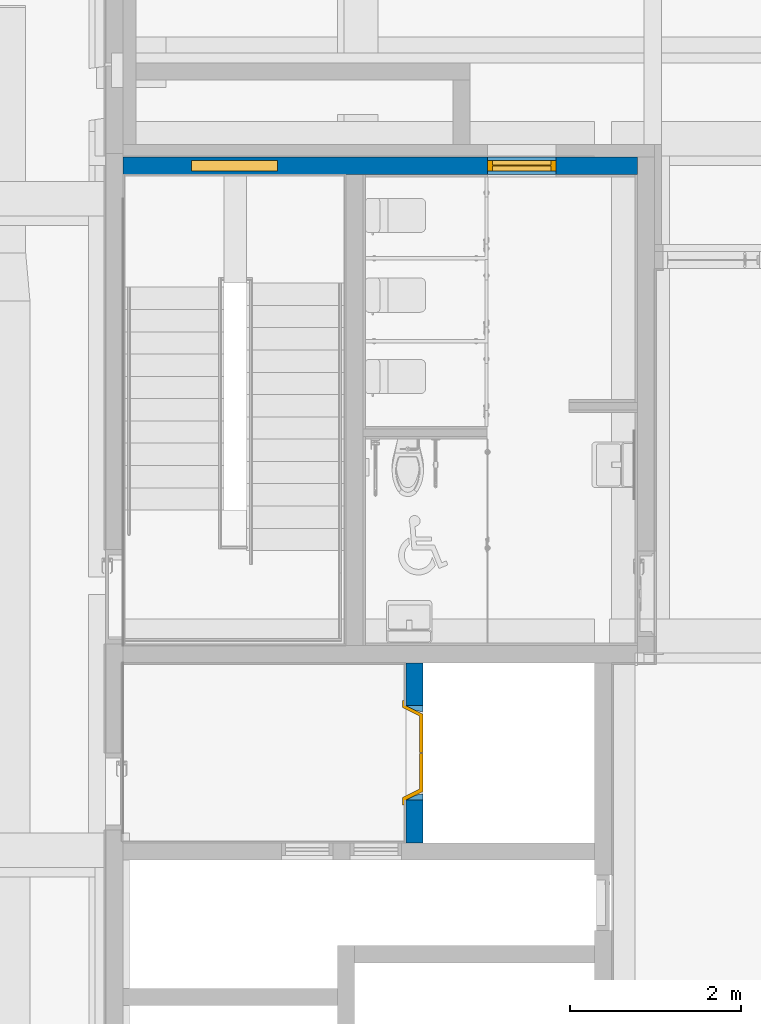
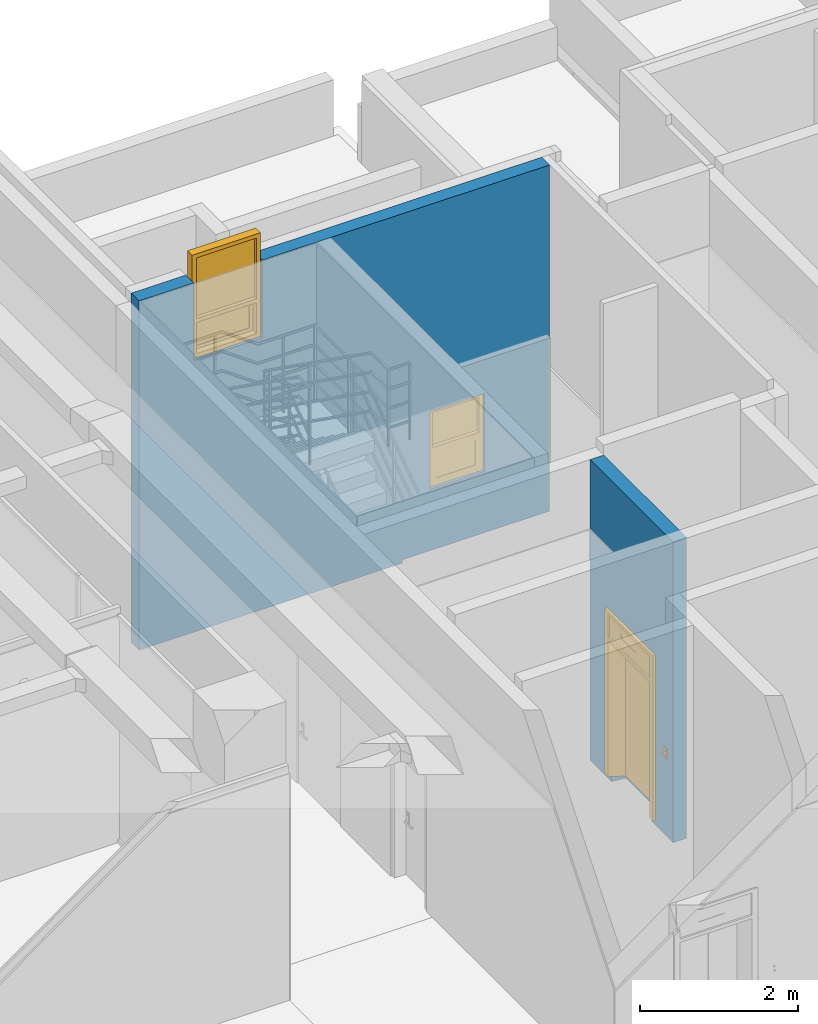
# One storey, part 64 of 100: 2 walls, 2 windows, 1 door, 3 openings.
"""IFC2X3 building model written with IfcOpenShell, lengths in millimetres."""

from ifc_helpers import new_model, entity, si_unit, converted_unit, derived_unit, direction, frame, frame_2d, origin, place, context, subcontext, project, spatial, rectangle, extrude, faceted_brep, source, transform, mapped, material, material_list, layer, layer_set, type_object, type_shapes, element, fill, save


model = new_model("IFC2X3")

# Units and contexts
model_context = context("Model", 3, precision=0.01, world=origin(), true_north=direction((6.123031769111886e-17, 1.0)))
body_context = subcontext(model_context, "Body", "Model", "MODEL_VIEW")
ifc_project = project(units=[si_unit("LENGTHUNIT", "METRE", prefix="MILLI"), si_unit("AREAUNIT", "SQUARE_METRE"), si_unit("VOLUMEUNIT", "CUBIC_METRE"), converted_unit("PLANEANGLEUNIT", "DEGREE", entity("IfcRatioMeasure", 0.017453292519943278), si_unit("PLANEANGLEUNIT", "RADIAN"), dimensions=[0, 0, 0, 0, 0, 0, 0]), si_unit("MASSUNIT", "GRAM", prefix="KILO"), derived_unit("MASSDENSITYUNIT", [(si_unit("MASSUNIT", "GRAM", prefix="KILO"), 1), (si_unit("LENGTHUNIT", "METRE"), -3)]), derived_unit("MOMENTOFINERTIAUNIT", [(si_unit("LENGTHUNIT", "METRE"), 4)]), si_unit("TIMEUNIT", "SECOND"), si_unit("FREQUENCYUNIT", "HERTZ"), si_unit("THERMODYNAMICTEMPERATUREUNIT", "DEGREE_CELSIUS"), derived_unit("THERMALTRANSMITTANCEUNIT", [(si_unit("MASSUNIT", "GRAM", prefix="KILO"), 1), (si_unit("THERMODYNAMICTEMPERATUREUNIT", "KELVIN"), -1), (si_unit("TIMEUNIT", "SECOND"), -3)]), derived_unit("VOLUMETRICFLOWRATEUNIT", [(si_unit("LENGTHUNIT", "METRE"), 3), (si_unit("TIMEUNIT", "SECOND"), -1)]), derived_unit("MASSFLOWRATEUNIT", [(si_unit("MASSUNIT", "GRAM", prefix="KILO"), 1), (si_unit("TIMEUNIT", "SECOND"), -1)]), derived_unit("ROTATIONALFREQUENCYUNIT", [(si_unit("TIMEUNIT", "SECOND"), -1)]), si_unit("ELECTRICCURRENTUNIT", "AMPERE"), si_unit("ELECTRICVOLTAGEUNIT", "VOLT"), si_unit("POWERUNIT", "WATT"), si_unit("FORCEUNIT", "NEWTON", prefix="KILO"), si_unit("ILLUMINANCEUNIT", "LUX"), si_unit("LUMINOUSFLUXUNIT", "LUMEN"), si_unit("LUMINOUSINTENSITYUNIT", "CANDELA"), derived_unit("USERDEFINED", [(si_unit("MASSUNIT", "GRAM", prefix="KILO"), -1), (si_unit("LENGTHUNIT", "METRE"), -2), (si_unit("TIMEUNIT", "SECOND"), 3), (si_unit("LUMINOUSFLUXUNIT", "LUMEN"), 1)]), derived_unit("SOUNDPOWERUNIT", [(si_unit("MASSUNIT", "GRAM", prefix="KILO"), 1), (si_unit("LENGTHUNIT", "METRE"), 2), (si_unit("TIMEUNIT", "SECOND"), -3)]), derived_unit("SOUNDPRESSUREUNIT", [(si_unit("MASSUNIT", "GRAM", prefix="KILO"), 1), (si_unit("LENGTHUNIT", "METRE"), -1), (si_unit("TIMEUNIT", "SECOND"), -2)]), derived_unit("LINEARVELOCITYUNIT", [(si_unit("LENGTHUNIT", "METRE"), 1), (si_unit("TIMEUNIT", "SECOND"), -1)]), si_unit("PRESSUREUNIT", "PASCAL"), derived_unit("USERDEFINED", [(si_unit("LENGTHUNIT", "METRE"), -2), (si_unit("MASSUNIT", "GRAM", prefix="KILO"), 1), (si_unit("TIMEUNIT", "SECOND"), -2)]), derived_unit("LINEARFORCEUNIT", [(si_unit("MASSUNIT", "GRAM", prefix="KILO"), 1), (si_unit("LENGTHUNIT", "METRE"), 1), (si_unit("TIMEUNIT", "SECOND"), -2), (si_unit("LENGTHUNIT", "METRE"), -1)]), derived_unit("PLANARFORCEUNIT", [(si_unit("MASSUNIT", "GRAM", prefix="KILO"), 1), (si_unit("LENGTHUNIT", "METRE"), 1), (si_unit("TIMEUNIT", "SECOND"), -2), (si_unit("LENGTHUNIT", "METRE"), -2)])], contexts=[model_context])

# Site, building, storey
site_placement = place(None, frame((-14167.972527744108, -657.2125860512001, 0.0)))
site = spatial("IfcSite", under=ifc_project, at=site_placement, Name="Default", CompositionType="ELEMENT")
building_placement = place(site_placement, origin())
building = spatial("IfcBuilding", under=site, at=building_placement, Name="Sample Building", CompositionType="ELEMENT")
storey_placement = place(building_placement, origin())
storey = spatial("IfcBuildingStorey", under=building, at=storey_placement, Name="지상 1층", CompositionType="ELEMENT", Elevation=0.0)

# Wall, openings, windows
ifc_material_1 = material(Name="KBIMS-콘크리트")
ifc_layer = layer(ifc_material_1, 200.0)
ifc_layer_set = layer_set([ifc_layer], Name="기본 벽:WA111-철근콘크리트구조 벽 200mm_CW1")
wall_type = type_object("IfcWallType", Name="기본 벽:WA111-철근콘크리트구조 벽 200mm_CW1", PredefinedType="STANDARD", material=ifc_layer_set)
wall_1_placement = place(storey_placement, frame((30266.125814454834, 28057.212307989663, -600.0)))
wall_1 = element("IfcWall", 1, at=wall_1_placement, inside=storey, type_object=wall_type, Name="기본 벽:WA111-철근콘크리트구조 벽 200mm_CW1", ObjectType="기본 벽:WA111-철근콘크리트구조 벽 200mm_CW1", context=body_context, shape_type="Brep", body=[
    faceted_brep([(5051.84667667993, -100.0, 2200.0), (5051.846676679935, -100.0, 1000.0), (4251.846676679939, -100.0, 1000.0), (4251.846676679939, -100.0, 2200.0), (0.0, -100.0, 5400.0), (0.0, -100.0, 5250.0), (0.0, -100.0, 5000.0), (0.0, -100.0, 600.0), (0.0, -100.0, 0.0), (3850.4073795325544, -100.0, 0.0), (3850.4073795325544, -100.0, 50.0), (6001.837983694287, -100.0, 50.0), (6001.837983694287, -100.0, 5000.0), (6001.837983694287, -100.0, 5200.0), (6001.837983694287, -100.0, 5350.0), (6001.837983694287, -100.0, 5400.0), (2801.8466766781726, -100.0, 5400.0), (2601.8466766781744, -100.0, 5400.0), (1800.923338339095, -100.0, 5400.0), (1800.923338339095, -100.0, 4200.0), (800.923338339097, -100.0, 4200.0), (800.923338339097, -100.0, 5400.0), (1.8379470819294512, -100.0, 5400.0), (5051.84667667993, 100.0, 1000.0), (5051.846676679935, 100.0, 2200.0), (4251.846676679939, 100.0, 2200.0), (4251.846676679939, 100.0, 1000.0), (0.0, 100.0, 0.0), (0.0, 100.0, 600.0), (0.0, 100.0, 5000.0), (0.0, 100.0, 5250.0), (0.0, 100.0, 5400.0), (1.8379470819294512, 100.0, 5400.0), (800.923338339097, 100.0, 5400.0), (800.923338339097, 100.0, 4200.0), (1800.923338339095, 100.0, 4200.0), (1800.923338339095, 100.0, 5400.0), (6001.837983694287, 100.0, 5400.0), (6001.837983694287, 100.0, 50.0), (3850.4073795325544, 100.0, 50.0), (3850.4073795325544, 100.0, 0.0)], [[[0, 1, 2, 3], [4, 5, 6, 7, 8, 9, 10, 11, 12, 13, 14, 15, 16, 17, 18, 19, 20, 21, 22]], [[23, 24, 25, 26], [27, 28, 29, 30, 31, 32, 33, 34, 35, 36, 37, 38, 39, 40]], [[8, 27, 40, 9]], [[15, 37, 36, 18, 17, 16]], [[8, 7, 6, 5, 4, 31, 30, 29, 28, 27]], [[37, 15, 14, 13, 12, 11, 38]], [[24, 23, 1, 0]], [[25, 24, 0, 3]], [[26, 25, 3, 2]], [[23, 26, 2, 1]], [[20, 34, 33, 21]], [[35, 19, 18, 36]], [[34, 20, 19, 35]], [[10, 39, 38, 11]], [[39, 10, 9, 40]], [[31, 4, 22, 21, 33, 32]]], outer=[[False, True], [False, True], [True], [True], [True], [True], [True], [True], [True], [True], [True], [True], [True], [True], [True], [True]]),
])
opening_1_placement = place(wall_1_placement, frame((5051.846676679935, 100.0, 1000.0)))
opening_1 = element("IfcOpeningElement", 2, at=opening_1_placement, cuts=wall_1, Name="WD812-미들창(스테인리스 스틸):WD812-미들창(스테인리스 스틸) 하부개폐 800x1200mm:1", ObjectType="Opening", context=body_context, shape_type="SweptSolid", body=[
    extrude(rectangle(XDim=1200.000000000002, YDim=799.9999999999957, at=frame_2d((600.000000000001, 399.99999999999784), x_axis=(1.0, 0.0))), frame((0.0, 0.0, 0.0), z_axis=(0.0, -1.0, 0.0), x_axis=(0.0, 0.0, 1.0)), (0.0, 0.0, 1.0), 200.0),
])
opening_2_placement = place(wall_1_placement, frame((800.923338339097, -100.0, 4200.0)))
opening_2 = element("IfcOpeningElement", 3, at=opening_2_placement, cuts=wall_1, Name="WD812-미들창(스테인리스 스틸):WD812-미들창(스테인리스 스틸) 하부개폐 1000x1600mm:1", ObjectType="Opening", context=body_context, shape_type="SweptSolid", body=[
    extrude(rectangle(XDim=1600.0000000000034, YDim=999.9999999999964, at=frame_2d((800.0000000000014, 499.9999999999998), x_axis=(1.0, 0.0))), frame((0.0, 0.0, 0.0), z_axis=(0.0, 1.0, 0.0), x_axis=(0.0, 0.0, 1.0)), (0.0, 0.0, 1.0), 200.0),
])
ifc_material_2 = material(Name="KBIMS-스테인리스 스틸")
ifc_material_3 = material(Name="KBIMS-유리")
ifc_material_list_1 = material_list([ifc_material_2, ifc_material_3])
ifc_material_list_2 = material_list([ifc_material_2, ifc_material_3, ifc_material_2, ifc_material_2, ifc_material_3])
window_style_1 = type_object("IfcWindowStyle", Name="WD812-미들창(스테인리스 스틸):WD812-미들창(스테인리스 스틸) 하부개폐 1000x1600mm", ConstructionType="NOTDEFINED", OperationType="NOTDEFINED", ParameterTakesPrecedence=False, Sizeable=False, material=ifc_material_list_2)
shared_shape_1 = source(origin(), body_context, "Body", "Brep", [
    faceted_brep([(60.0, 40.0, 540.0), (60.0, 160.0, 540.0), (940.0, 160.0, 540.0), (940.0, 40.0, 540.0), (0.0, 160.0, 600.0), (0.0, 40.0, 600.0), (60.0, 40.0, 600.0), (940.0, 40.0, 600.0), (1000.0, 40.0, 600.0), (1000.0, 160.0, 600.0), (940.0, 160.0, 600.0), (60.0, 160.0, 600.0), (940.0, 160.0, 60.0), (940.0, 40.0, 60.0), (1000.0, 40.0, 0.0), (1000.0, 160.0, 0.0), (60.0, 160.0, 60.0), (60.0, 40.0, 60.0), (0.0, 40.0, 0.0), (0.0, 160.0, 0.0)], [[[0, 1, 2, 3]], [[4, 5, 6, 7, 8, 9, 10, 11]], [[3, 2, 12, 13]], [[9, 8, 14, 15]], [[13, 12, 16, 17]], [[15, 14, 18, 19]], [[17, 16, 1, 0]], [[3, 13, 17, 0], [5, 18, 14, 8, 7, 6]], [[19, 18, 5, 4]], [[1, 16, 12, 2], [9, 15, 19, 4, 11, 10]]], outer=[[True], [True], [True], [True], [True], [True], [True], [False, True], [True], [False, True]]),
    faceted_brep([(900.0, 151.0, 500.0), (100.0, 151.0, 500.0), (100.0, 139.0, 500.0), (900.0, 139.0, 500.0), (900.0, 151.0, 100.0), (900.0, 139.0, 100.0), (100.0, 139.0, 100.0), (100.0, 151.0, 100.0)], [[[0, 1, 2, 3]], [[4, 5, 6, 7]], [[1, 0, 4, 7]], [[2, 1, 7, 6]], [[3, 2, 6, 5]], [[0, 3, 5, 4]]]),
    faceted_brep([(890.0, 130.0, 490.0), (890.0, 130.0, 110.0), (110.0, 130.0, 110.0), (110.0, 130.0, 490.0), (60.0, 130.0, 540.0), (60.0, 130.0, 60.0), (940.0, 130.0, 60.0), (940.0, 130.0, 540.0), (110.0, 139.0, 110.0), (110.0, 139.0, 490.0), (900.0, 139.0, 500.0), (900.0, 139.0, 100.0), (100.0, 139.0, 100.0), (100.0, 139.0, 500.0), (890.0, 139.0, 110.0), (890.0, 139.0, 490.0), (100.0, 151.0, 100.0), (100.0, 151.0, 500.0), (890.0, 151.0, 490.0), (890.0, 151.0, 110.0), (110.0, 151.0, 110.0), (110.0, 151.0, 490.0), (900.0, 151.0, 100.0), (900.0, 151.0, 500.0), (110.0, 160.0, 110.0), (110.0, 160.0, 490.0), (940.0, 160.0, 60.0), (60.0, 160.0, 60.0), (890.0, 160.0, 490.0), (60.0, 160.0, 540.0), (940.0, 160.0, 540.0), (890.0, 160.0, 110.0)], [[[0, 1, 2, 3], [4, 5, 6, 7]], [[2, 8, 9, 3]], [[10, 11, 12, 13], [9, 8, 14, 15]], [[12, 16, 17, 13]], [[18, 19, 20, 21], [17, 16, 22, 23]], [[20, 24, 25, 21]], [[26, 6, 5, 27]], [[21, 25, 28, 18]], [[13, 17, 23, 10]], [[3, 9, 15, 0]], [[29, 4, 7, 30]], [[18, 28, 31, 19]], [[10, 23, 22, 11]], [[0, 15, 14, 1]], [[30, 7, 6, 26]], [[19, 31, 24, 20]], [[11, 22, 16, 12]], [[1, 14, 8, 2]], [[27, 5, 4, 29]], [[25, 24, 31, 28], [30, 26, 27, 29]]], outer=[[False, True], [True], [True, False], [True], [False, True], [True], [True], [True], [True], [True], [True], [True], [True], [True], [True], [True], [True], [True], [True], [False, True]]),
    faceted_brep([(60.0, 160.0, 600.0), (60.0, 40.0, 600.0), (0.0, 40.0, 600.0), (0.0, 160.0, 600.0), (60.0, 40.0, 1540.0), (60.0, 160.0, 1540.0), (940.0, 160.0, 1540.0), (940.0, 40.0, 1540.0), (0.0, 160.0, 1600.0), (0.0, 40.0, 1600.0), (1000.0, 40.0, 1600.0), (1000.0, 160.0, 1600.0), (940.0, 160.0, 600.0), (940.0, 40.0, 600.0), (1000.0, 40.0, 600.0), (1000.0, 160.0, 600.0)], [[[0, 1, 2, 3]], [[4, 5, 6, 7]], [[8, 9, 10, 11]], [[7, 6, 12, 13]], [[11, 10, 14, 15]], [[12, 15, 14, 13]], [[1, 0, 5, 4]], [[2, 1, 4, 7, 13, 14, 10, 9]], [[3, 2, 9, 8]], [[0, 3, 8, 11, 15, 12, 6, 5]]]),
    faceted_brep([(940.0, 106.0, 1540.0), (60.0, 106.0, 1540.0), (60.0, 94.0, 1540.0), (940.0, 94.0, 1540.0), (940.0, 106.0, 600.0), (940.0, 94.0, 600.0), (60.0, 94.0, 600.0), (60.0, 106.0, 600.0)], [[[0, 1, 2, 3]], [[4, 5, 6, 7]], [[1, 0, 4, 7]], [[2, 1, 7, 6]], [[3, 2, 6, 5]], [[0, 3, 5, 4]]]),
])
type_shapes(window_style_1, [shared_shape_1])
window_1_placement = place(opening_2_placement, origin())
window_1 = element("IfcWindow", 4, at=window_1_placement, inside=storey, type_object=window_style_1, material=ifc_material_list_1, Name="WD812-미들창(스테인리스 스틸):WD812-미들창(스테인리스 스틸) 하부개폐 1000x1600mm", ObjectType="WD812-미들창(스테인리스 스틸):WD812-미들창(스테인리스 스틸) 하부개폐 1000x1600mm", OverallHeight=1600.0000000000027, OverallWidth=999.999999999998, context=body_context, shape_type="MappedRepresentation", body=[
    mapped(shared_shape_1, transform((0.0, 0.0, 0.0), scale=1.0)),
])
fill(opening_2, window_1)
ifc_material_list_3 = material_list([ifc_material_2, ifc_material_3])
ifc_material_list_4 = material_list([ifc_material_2, ifc_material_3, ifc_material_2, ifc_material_2, ifc_material_3])
window_style_2 = type_object("IfcWindowStyle", Name="WD812-미들창(스테인리스 스틸):WD812-미들창(스테인리스 스틸) 하부개폐 800x1200mm", ConstructionType="NOTDEFINED", OperationType="NOTDEFINED", ParameterTakesPrecedence=False, Sizeable=False, material=ifc_material_list_4)
shared_shape_2 = source(origin(), body_context, "Body", "Brep", [
    faceted_brep([(60.0, 40.0, 540.0), (60.0, 160.0, 540.0), (740.0, 160.0, 540.0), (740.0, 40.0, 540.0), (0.0, 160.0, 600.0), (0.0, 40.0, 600.0), (60.0, 40.0, 600.0), (740.0, 40.0, 600.0), (800.0, 40.0, 600.0), (800.0, 160.0, 600.0), (740.0, 160.0, 600.0), (60.0, 160.0, 600.0), (740.0, 160.0, 60.0), (740.0, 40.0, 60.0), (800.0, 40.0, 0.0), (800.0, 160.0, 0.0), (60.0, 160.0, 60.0), (60.0, 40.0, 60.0), (0.0, 40.0, 0.0), (0.0, 160.0, 0.0)], [[[0, 1, 2, 3]], [[4, 5, 6, 7, 8, 9, 10, 11]], [[3, 2, 12, 13]], [[9, 8, 14, 15]], [[13, 12, 16, 17]], [[15, 14, 18, 19]], [[17, 16, 1, 0]], [[3, 13, 17, 0], [5, 18, 14, 8, 7, 6]], [[19, 18, 5, 4]], [[1, 16, 12, 2], [9, 15, 19, 4, 11, 10]]], outer=[[True], [True], [True], [True], [True], [True], [True], [False, True], [True], [False, True]]),
    faceted_brep([(700.0, 151.0, 500.0), (100.0, 151.0, 500.0), (100.0, 139.0, 500.0), (700.0, 139.0, 500.0), (700.0, 151.0, 100.0), (700.0, 139.0, 100.0), (100.0, 139.0, 100.0), (100.0, 151.0, 100.0)], [[[0, 1, 2, 3]], [[4, 5, 6, 7]], [[1, 0, 4, 7]], [[2, 1, 7, 6]], [[3, 2, 6, 5]], [[0, 3, 5, 4]]]),
    faceted_brep([(690.0, 130.0, 490.0), (690.0, 130.0, 110.0), (110.0, 130.0, 110.0), (110.0, 130.0, 490.0), (60.0, 130.0, 540.0), (60.0, 130.0, 60.0), (740.0, 130.0, 60.0), (740.0, 130.0, 540.0), (110.0, 139.0, 110.0), (110.0, 139.0, 490.0), (700.0, 139.0, 500.0), (700.0, 139.0, 100.0), (100.0, 139.0, 100.0), (100.0, 139.0, 500.0), (690.0, 139.0, 110.0), (690.0, 139.0, 490.0), (100.0, 151.0, 100.0), (100.0, 151.0, 500.0), (690.0, 151.0, 490.0), (690.0, 151.0, 110.0), (110.0, 151.0, 110.0), (110.0, 151.0, 490.0), (700.0, 151.0, 100.0), (700.0, 151.0, 500.0), (110.0, 160.0, 110.0), (110.0, 160.0, 490.0), (740.0, 160.0, 60.0), (60.0, 160.0, 60.0), (690.0, 160.0, 490.0), (60.0, 160.0, 540.0), (740.0, 160.0, 540.0), (690.0, 160.0, 110.0)], [[[0, 1, 2, 3], [4, 5, 6, 7]], [[2, 8, 9, 3]], [[10, 11, 12, 13], [9, 8, 14, 15]], [[12, 16, 17, 13]], [[18, 19, 20, 21], [17, 16, 22, 23]], [[20, 24, 25, 21]], [[26, 6, 5, 27]], [[21, 25, 28, 18]], [[13, 17, 23, 10]], [[3, 9, 15, 0]], [[29, 4, 7, 30]], [[18, 28, 31, 19]], [[10, 23, 22, 11]], [[0, 15, 14, 1]], [[30, 7, 6, 26]], [[19, 31, 24, 20]], [[11, 22, 16, 12]], [[1, 14, 8, 2]], [[27, 5, 4, 29]], [[25, 24, 31, 28], [30, 26, 27, 29]]], outer=[[False, True], [True], [True, False], [True], [False, True], [True], [True], [True], [True], [True], [True], [True], [True], [True], [True], [True], [True], [True], [True], [False, True]]),
    faceted_brep([(60.0, 160.0, 600.0), (60.0, 40.0, 600.0), (0.0, 40.0, 600.0), (0.0, 160.0, 600.0), (60.0, 40.0, 1140.0), (60.0, 160.0, 1140.0), (740.0, 160.0, 1140.0), (740.0, 40.0, 1140.0), (0.0, 160.0, 1200.0), (0.0, 40.0, 1200.0), (800.0, 40.0, 1200.0), (800.0, 160.0, 1200.0), (740.0, 160.0, 600.0), (740.0, 40.0, 600.0), (800.0, 40.0, 600.0), (800.0, 160.0, 600.0)], [[[0, 1, 2, 3]], [[4, 5, 6, 7]], [[8, 9, 10, 11]], [[7, 6, 12, 13]], [[11, 10, 14, 15]], [[12, 15, 14, 13]], [[1, 0, 5, 4]], [[2, 1, 4, 7, 13, 14, 10, 9]], [[3, 2, 9, 8]], [[0, 3, 8, 11, 15, 12, 6, 5]]]),
    faceted_brep([(740.0, 106.0, 1140.0), (60.0, 106.0, 1140.0), (60.0, 94.0, 1140.0), (740.0, 94.0, 1140.0), (740.0, 106.0, 600.0), (740.0, 94.0, 600.0), (60.0, 94.0, 600.0), (60.0, 106.0, 600.0)], [[[0, 1, 2, 3]], [[4, 5, 6, 7]], [[1, 0, 4, 7]], [[2, 1, 7, 6]], [[3, 2, 6, 5]], [[0, 3, 5, 4]]]),
])
type_shapes(window_style_2, [shared_shape_2])
window_2_placement = place(opening_1_placement, frame((0.0, 0.0, 0.0), z_axis=(0.0, 0.0, 1.0), x_axis=(-1.0, 0.0, 0.0)))
window_2 = element("IfcWindow", 5, at=window_2_placement, inside=storey, type_object=window_style_2, material=ifc_material_list_3, Name="WD812-미들창(스테인리스 스틸):WD812-미들창(스테인리스 스틸) 하부개폐 800x1200mm", ObjectType="WD812-미들창(스테인리스 스틸):WD812-미들창(스테인리스 스틸) 하부개폐 800x1200mm", OverallHeight=1200.000000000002, OverallWidth=799.9999999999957, context=body_context, shape_type="MappedRepresentation", body=[
    mapped(shared_shape_2, transform((0.0, 0.0, 0.0), scale=1.0)),
])
fill(opening_1, window_2)

# Wall, opening, door
wall_2_placement = place(storey_placement, frame((33667.97249113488, 22257.212311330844, 0.0), z_axis=(0.0, 0.0, 1.0), x_axis=(0.0, -1.0, 0.0)))
wall_2 = element("IfcWall", 6, at=wall_2_placement, inside=storey, type_object=wall_type, Name="기본 벽:WA111-철근콘크리트구조 벽 200mm_CW1", ObjectType="기본 벽:WA111-철근콘크리트구조 벽 200mm_CW1", context=body_context, shape_type="Brep", body=[
    faceted_brep([(500.0000016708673, -100.0, 80.0), (500.0000016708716, -100.0, 2630.0), (1600.0, -100.0, 2630.0), (1600.0, -100.0, 80.0), (1557.108615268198, -100.0, 80.0), (1557.1086152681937, -100.0, 0.0), (2100.0, -100.0, 0.0), (2100.0, -100.0, 4650.0), (0.0, -100.0, 4650.0), (0.0, -100.0, 0.0), (542.891388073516, -100.0, 0.0), (542.891388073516, -100.0, 80.0), (2100.0, 100.0, 0.0), (0.0, 100.0, 0.0), (0.0, 100.0, 4650.0), (2100.0, 100.0, 4650.0), (500.0000016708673, 100.0, 2630.0), (500.0000016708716, 100.0, 80.0), (1600.0, 100.0, 80.0), (1600.0, 100.0, 2630.0), (1529.7770699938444, 98.15332333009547, 0.0), (570.2229333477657, 98.15332333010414, 0.0), (570.2229333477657, 98.15332333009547, 80.0), (1529.7770699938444, 98.15332333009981, 80.0)], [[[0, 1, 2, 3, 4, 5, 6, 7, 8, 9, 10, 11]], [[12, 13, 14, 15], [16, 17, 18, 19]], [[13, 12, 6, 5, 20, 21, 10, 9]], [[13, 9, 8, 14]], [[6, 12, 15, 7]], [[1, 0, 17, 16]], [[2, 1, 16, 19]], [[3, 2, 19, 18]], [[18, 17, 0, 11, 22, 23, 4, 3]], [[8, 7, 15, 14]], [[21, 22, 11, 10]], [[22, 21, 20, 23]], [[23, 20, 5, 4]]]),
])
opening_3_placement = place(wall_2_placement, frame((500.0000016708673, -100.0, 80.0)))
opening_3 = element("IfcOpeningElement", 7, at=opening_3_placement, cuts=wall_2, Name="EE111-엘리베이터문(문):EE111-엘리베이터문(13인승)_1100x2550:1", ObjectType="Opening", context=body_context, shape_type="SweptSolid", body=[
    extrude(rectangle(XDim=2549.999999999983, YDim=1099.9999999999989, at=frame_2d((1274.9999999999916, 550.0000000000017), x_axis=(1.0, 0.0))), frame((0.0, 0.0, 0.0), z_axis=(0.0, 1.0, 0.0), x_axis=(0.0, 0.0, 1.0)), (0.0, 0.0, 1.0), 200.0),
])
ifc_material_4 = material(Name="<Unnamed>")
ifc_material_list_5 = material_list([ifc_material_4, ifc_material_4, ifc_material_4, ifc_material_4])
ifc_material_list_6 = material_list([ifc_material_4, ifc_material_4, ifc_material_4, ifc_material_4])
door_style = type_object("IfcDoorStyle", Name="EE111-엘리베이터문(문):EE111-엘리베이터문(13인승)_1100x2550", ConstructionType="NOTDEFINED", OperationType="DOUBLE_DOOR_SLIDING", ParameterTakesPrecedence=False, Sizeable=False, material=ifc_material_list_6)
shared_shape_3 = source(origin(), body_context, "Body", "Brep", [
    faceted_brep([(-296.2736811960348, 220.43384628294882, 1175.0), (-313.5941892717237, 220.4338462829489, 1145.0), (-330.9146973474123, 220.43384628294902, 1175.0), (-296.2736811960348, 215.04269782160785, 1175.0), (-330.9146973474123, 215.0426978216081, 1175.0), (-313.5941892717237, 215.04269782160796, 1145.0)], [[[0, 1, 2]], [[3, 4, 5]], [[1, 0, 3, 5]], [[2, 1, 5, 4]], [[0, 2, 4, 3]]]),
    faceted_brep([(-330.9146973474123, 220.43384628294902, 1225.0), (-296.2736811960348, 220.43384628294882, 1225.0), (-296.2736811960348, 215.04269782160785, 1225.0), (-330.9146973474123, 215.04269782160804, 1225.0), (-313.5941892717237, 220.4338462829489, 1255.0), (-313.5941892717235, 215.04269782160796, 1255.0)], [[[0, 1, 2, 3]], [[4, 0, 3, 5]], [[1, 4, 5, 2]], [[2, 5, 3]], [[1, 0, 4]]]),
    faceted_brep([(-351.5567877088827, 215.0426978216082, 1277.0326998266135), (-275.63159083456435, 215.04269782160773, 1277.0326998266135), (-275.63159083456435, 215.04269782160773, 1122.967300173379), (-351.5567877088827, 215.0426978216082, 1122.967300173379), (-351.55678770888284, 200.0, 1277.0326998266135), (-351.55678770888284, 200.0, 1122.967300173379), (-275.6315908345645, 200.0, 1122.967300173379), (-275.6315908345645, 200.0, 1277.0326998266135)], [[[0, 1, 2, 3]], [[4, 5, 6, 7]], [[1, 0, 4, 7]], [[2, 1, 7, 6]], [[3, 2, 6, 5]], [[0, 3, 5, 4]]]),
    faceted_brep([(-60.0, 200.0, 2550.0), (-60.0, 240.0, 2550.0), (-60.0, 240.0, 0.0), (-60.0, 200.0, 0.0), (703.014298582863, 240.0, 2550.0), (703.014298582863, 240.0, 2500.0), (27.911234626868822, 240.0, 2500.0), (27.911234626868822, 240.0, 2150.0), (703.014298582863, 240.0, 2150.0), (703.014298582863, 240.0, 2100.0), (27.911234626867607, 240.0, 2100.0), (27.911234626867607, 240.0, 0.0), (978.5926496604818, 40.0, 0.0), (1078.5926496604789, 240.0, 0.0), (1160.0, 240.0, 0.0), (1160.0, 200.0, 0.0), (1100.0, 200.0, 0.0), (1000.0, 0.0, 0.0), (555.0, 0.0, 0.0), (555.0, 40.0, 0.0), (0.0, 200.0, 2550.0), (0.0, 200.0, 0.0), (100.0, 0.0, 2550.0), (100.0, 0.0, 0.0), (1000.0, 0.0, 2550.0), (545.0, 0.0, 0.0), (545.0, 0.0, 2100.0), (555.0, 0.0, 2100.0), (545.0, 40.0, 0.0), (545.0, 40.0, 2100.0), (555.0, 40.0, 2100.0), (1100.0, 200.0, 2550.0), (1160.0, 200.0, 2550.0), (1160.0, 240.0, 2550.0), (1078.5926496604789, 240.0, 2100.0), (1078.5926496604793, 240.0, 2150.0), (1078.5926496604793, 240.0, 2500.0), (978.5926496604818, 40.0, 2100.0), (127.91123462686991, 40.0, 0.0), (127.91123462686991, 40.0, 2100.0), (1078.5926496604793, 214.08728771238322, 2150.0), (1078.5926496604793, 214.08728771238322, 2500.0), (27.911234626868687, 214.0872877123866, 2500.0), (27.911234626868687, 214.0872877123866, 2150.0), (550.0, 214.08728771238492, 2370.0), (410.8272722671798, 214.08728771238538, 2370.0), (410.8272722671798, 214.08728771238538, 2300.0), (550.0, 214.08728771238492, 2300.0), (789.172727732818, 214.08728771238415, 2300.0), (789.172727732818, 214.08728771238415, 2370.0), (550.0, 208.4787281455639, 2370.0), (410.8272722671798, 208.47872814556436, 2370.0), (410.8272722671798, 208.47872814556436, 2300.0), (789.172727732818, 208.47872814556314, 2300.0), (789.172727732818, 208.47872814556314, 2370.0), (550.0, 208.4787281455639, 2300.0)], [[[0, 1, 2, 3]], [[2, 1, 4, 5, 6, 7, 8, 9, 10, 11]], [[12, 13, 14, 15, 16, 17, 18, 19]], [[20, 0, 3, 21]], [[22, 20, 21, 23]], [[24, 22, 23, 25, 26, 27, 18, 17]], [[25, 28, 29, 26]], [[19, 18, 27, 30]], [[31, 24, 17, 16]], [[32, 31, 16, 15]], [[33, 32, 15, 14]], [[4, 33, 14, 13, 34, 9, 8, 35, 36, 5]], [[13, 12, 37, 34]], [[38, 11, 10, 39]], [[38, 39, 29, 28]], [[37, 12, 19, 30]], [[1, 0, 20, 22, 24, 31, 32, 33, 4]], [[40, 41, 36, 35]], [[41, 42, 6, 5, 36]], [[42, 43, 7, 6]], [[43, 42, 41, 40], [44, 45, 46, 47, 48, 49]], [[50, 51, 45, 44]], [[51, 52, 46, 45]], [[53, 54, 49, 48]], [[54, 50, 44, 49]], [[50, 54, 53, 55, 52, 51]], [[10, 9, 34, 37, 30, 27, 26, 29, 39]], [[43, 40, 35, 8, 7]], [[52, 55, 47, 46]], [[55, 53, 48, 47]], [[21, 3, 2, 11, 38, 28, 25, 23]]]),
])
type_shapes(door_style, [shared_shape_3])
door_placement = place(opening_3_placement, frame((1100.0, 200.0, 0.0), z_axis=(0.0, 0.0, 1.0), x_axis=(-1.0, 0.0, 0.0)))
door = element("IfcDoor", 8, at=door_placement, inside=storey, type_object=door_style, material=ifc_material_list_5, Name="EE111-엘리베이터문(문):EE111-엘리베이터문(13인승)_1100x2550", ObjectType="EE111-엘리베이터문(문):EE111-엘리베이터문(13인승)_1100x2550", OverallHeight=2549.999999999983, OverallWidth=1100.0000000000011, context=body_context, shape_type="MappedRepresentation", body=[
    mapped(shared_shape_3, transform((0.0, 0.0, 0.0), scale=1.0)),
])
fill(opening_3, door)

save(model, "model.ifc")
